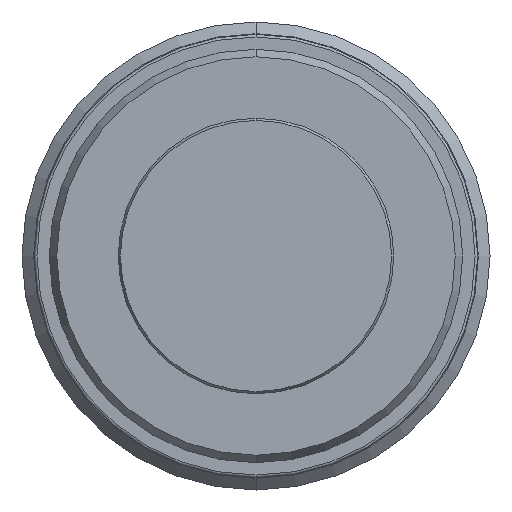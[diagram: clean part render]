
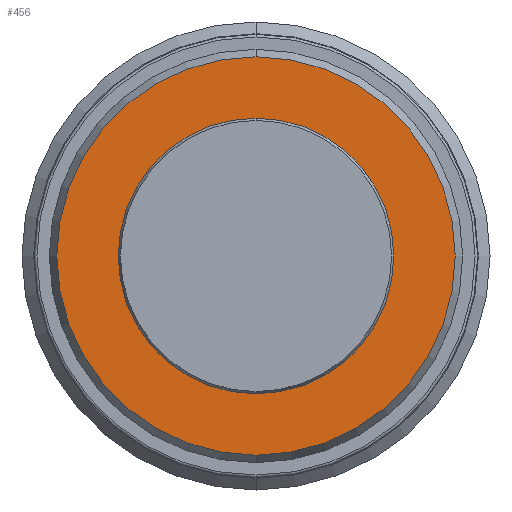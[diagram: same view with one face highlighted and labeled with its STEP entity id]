
A CAD part, front view. The second image highlights one B-rep face of the part: STEP entity #456.
In plain terms, the highlighted planar face has unit normal (0, -1, 0).
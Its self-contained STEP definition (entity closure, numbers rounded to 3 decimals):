
#246=PLANE('',#2845);
#270=FACE_BOUND('',#819,.T.);
#271=FACE_BOUND('',#820,.T.);
#456=ADVANCED_FACE('',(#270,#271),#246,.T.);
#819=EDGE_LOOP('',(#1481,#1482));
#820=EDGE_LOOP('',(#1483,#1484));
#1481=ORIENTED_EDGE('',*,*,#2181,.T.);
#1482=ORIENTED_EDGE('',*,*,#2285,.T.);
#1483=ORIENTED_EDGE('',*,*,#2183,.F.);
#1484=ORIENTED_EDGE('',*,*,#2284,.F.);
#1933=VERTEX_POINT('',#4097);
#1934=VERTEX_POINT('',#4099);
#1935=VERTEX_POINT('',#4103);
#1936=VERTEX_POINT('',#4104);
#2181=EDGE_CURVE('',#1934,#1933,#2518,.T.);
#2183=EDGE_CURVE('',#1935,#1936,#2519,.T.);
#2284=EDGE_CURVE('',#1936,#1935,#2566,.T.);
#2285=EDGE_CURVE('',#1933,#1934,#2567,.T.);
#2518=CIRCLE('',#2753,10.6);
#2519=CIRCLE('',#2755,15.323);
#2566=CIRCLE('',#2842,15.323);
#2567=CIRCLE('',#2844,10.6);
#2753=AXIS2_PLACEMENT_3D('',#4098,#3219,#3220);
#2755=AXIS2_PLACEMENT_3D('',#4102,#3224,#3225);
#2842=AXIS2_PLACEMENT_3D('',#4371,#3432,#3433);
#2844=AXIS2_PLACEMENT_3D('',#4373,#3436,#3437);
#2845=AXIS2_PLACEMENT_3D('',#4374,#3438,#3439);
#3219=DIRECTION('',(0.,1.,0.));
#3220=DIRECTION('',(0.,0.,1.));
#3224=DIRECTION('',(0.,1.,0.));
#3225=DIRECTION('',(0.,0.,1.));
#3432=DIRECTION('',(0.,1.,0.));
#3433=DIRECTION('',(0.,0.,1.));
#3436=DIRECTION('',(0.,1.,0.));
#3437=DIRECTION('',(0.,0.,1.));
#3438=DIRECTION('',(0.,-1.,0.));
#3439=DIRECTION('',(0.,0.,-1.));
#4097=CARTESIAN_POINT('',(0.,-2.2,-10.6));
#4098=CARTESIAN_POINT('',(0.,-2.2,0.));
#4099=CARTESIAN_POINT('',(0.,-2.2,10.6));
#4102=CARTESIAN_POINT('',(0.,-2.2,0.));
#4103=CARTESIAN_POINT('',(0.,-2.2,15.323));
#4104=CARTESIAN_POINT('',(0.,-2.2,-15.323));
#4371=CARTESIAN_POINT('',(0.,-2.2,0.));
#4373=CARTESIAN_POINT('',(0.,-2.2,0.));
#4374=CARTESIAN_POINT('',(10.6,-2.2,0.));
